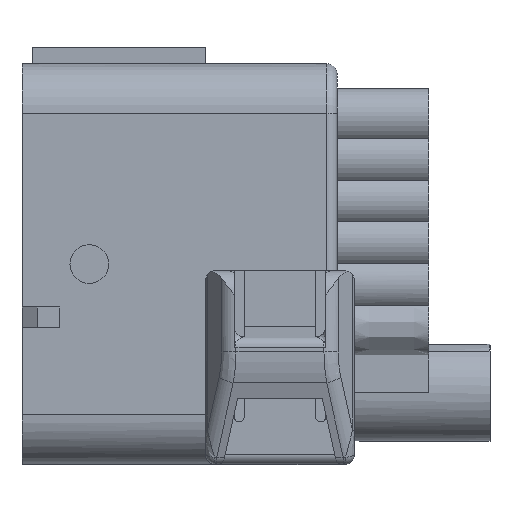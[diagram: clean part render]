
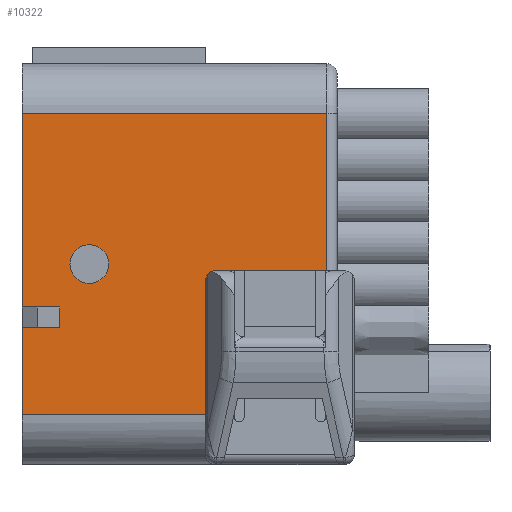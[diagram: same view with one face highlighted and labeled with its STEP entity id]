
A CAD part, front view. The second image highlights one B-rep face of the part: STEP entity #10322.
In plain terms, the highlighted planar face has unit normal (0, -1, 0).
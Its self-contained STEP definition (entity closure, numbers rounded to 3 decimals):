
#2157=CARTESIAN_POINT('Vertex',(0.,-10.05,-4.2)) ;
#2164=CARTESIAN_POINT('Vertex',(0.,-10.05,-6.2)) ;
#3484=CARTESIAN_POINT('Vertex',(8.5,-10.05,0.)) ;
#3487=CARTESIAN_POINT('Axis2P3D Location',(6.6,-10.05,0.)) ;
#3491=CARTESIAN_POINT('Vertex',(4.7,-10.05,0.)) ;
#3506=CARTESIAN_POINT('Axis2P3D Location',(6.6,-10.05,0.)) ;
#3519=CARTESIAN_POINT('Control Point',(0.5,-10.05,-4.2)) ;
#3520=CARTESIAN_POINT('Control Point',(3.7,-10.05,-4.2)) ;
#3521=CARTESIAN_POINT('Vertex',(3.7,-10.05,-4.2)) ;
#3523=CARTESIAN_POINT('Vertex',(0.5,-10.05,-4.2)) ;
#3527=CARTESIAN_POINT('Control Point',(0.,-10.05,-4.2)) ;
#3528=CARTESIAN_POINT('Control Point',(0.5,-10.05,-4.2)) ;
#3551=CARTESIAN_POINT('Vertex',(3.7,-10.05,-6.2)) ;
#3554=CARTESIAN_POINT('Line Origine',(3.7,-10.05,-5.2)) ;
#3567=CARTESIAN_POINT('Control Point',(0.,-10.05,-6.2)) ;
#3568=CARTESIAN_POINT('Control Point',(0.5,-10.05,-6.2)) ;
#3569=CARTESIAN_POINT('Vertex',(0.5,-10.05,-6.2)) ;
#3573=CARTESIAN_POINT('Control Point',(0.5,-10.05,-6.2)) ;
#3574=CARTESIAN_POINT('Control Point',(3.7,-10.05,-6.2)) ;
#3602=CARTESIAN_POINT('Vertex',(0.,-10.05,-14.75)) ;
#3605=CARTESIAN_POINT('Line Origine',(0.,-10.05,-10.475)) ;
#3610=CARTESIAN_POINT('Line Origine',(0.,-10.05,5.275)) ;
#3614=CARTESIAN_POINT('Vertex',(0.,-10.05,14.75)) ;
#3694=CARTESIAN_POINT('Vertex',(18.,-10.05,-14.75)) ;
#3697=CARTESIAN_POINT('Line Origine',(16.3,-10.05,-14.75)) ;
#4639=CARTESIAN_POINT('Line Origine',(15.45,-10.05,14.75)) ;
#4643=CARTESIAN_POINT('Vertex',(29.9,-10.05,14.75)) ;
#5355=CARTESIAN_POINT('Line Origine',(29.9,-10.05,0.)) ;
#5359=CARTESIAN_POINT('Vertex',(29.9,-10.05,-0.65)) ;
#10279=CARTESIAN_POINT('Axis2P3D Location',(0.,-10.05,-14.751)) ;
#10284=CARTESIAN_POINT('Line Origine',(24.45,-10.05,-0.65)) ;
#10288=CARTESIAN_POINT('Vertex',(19.,-10.05,-0.65)) ;
#10291=CARTESIAN_POINT('Line Origine',(18.,-10.05,-8.2)) ;
#10295=CARTESIAN_POINT('Vertex',(18.,-10.05,-1.65)) ;
#10298=CARTESIAN_POINT('Axis2P3D Location',(19.,-10.05,-1.65)) ;
#3488=DIRECTION('Axis2P3D Direction',(0.,1.,0.)) ;
#3507=DIRECTION('Axis2P3D Direction',(0.,1.,0.)) ;
#3555=DIRECTION('Vector Direction',(0.,0.,-1.)) ;
#3606=DIRECTION('Vector Direction',(0.,0.,1.)) ;
#3611=DIRECTION('Vector Direction',(0.,0.,1.)) ;
#3698=DIRECTION('Vector Direction',(-1.,0.,0.)) ;
#4640=DIRECTION('Vector Direction',(1.,0.,0.)) ;
#5356=DIRECTION('Vector Direction',(0.,0.,1.)) ;
#10280=DIRECTION('Axis2P3D Direction',(0.,1.,0.)) ;
#10281=DIRECTION('Axis2P3D XDirection',(-1.,0.,0.)) ;
#10285=DIRECTION('Vector Direction',(-1.,0.,0.)) ;
#10292=DIRECTION('Vector Direction',(0.,0.,-1.)) ;
#10299=DIRECTION('Axis2P3D Direction',(0.,1.,0.)) ;
#3489=AXIS2_PLACEMENT_3D('Circle Axis2P3D',#3487,#3488,$) ;
#3508=AXIS2_PLACEMENT_3D('Circle Axis2P3D',#3506,#3507,$) ;
#10282=AXIS2_PLACEMENT_3D('Plane Axis2P3D',#10279,#10280,#10281) ;
#10300=AXIS2_PLACEMENT_3D('Circle Axis2P3D',#10298,#10299,$) ;
#10304=ORIENTED_EDGE('',*,*,#10290,.F.) ;
#10305=ORIENTED_EDGE('',*,*,#5361,.T.) ;
#10306=ORIENTED_EDGE('',*,*,#4645,.F.) ;
#10307=ORIENTED_EDGE('',*,*,#3616,.F.) ;
#10308=ORIENTED_EDGE('',*,*,#3529,.F.) ;
#10309=ORIENTED_EDGE('',*,*,#3525,.F.) ;
#10310=ORIENTED_EDGE('',*,*,#3558,.T.) ;
#10311=ORIENTED_EDGE('',*,*,#3575,.T.) ;
#10312=ORIENTED_EDGE('',*,*,#3571,.T.) ;
#10313=ORIENTED_EDGE('',*,*,#3609,.F.) ;
#10314=ORIENTED_EDGE('',*,*,#3701,.F.) ;
#10315=ORIENTED_EDGE('',*,*,#10297,.F.) ;
#10316=ORIENTED_EDGE('',*,*,#10302,.F.) ;
#10319=ORIENTED_EDGE('',*,*,#3493,.T.) ;
#10320=ORIENTED_EDGE('',*,*,#3510,.T.) ;
#10321=FACE_BOUND('',#10318,.T.) ;
#3556=VECTOR('Line Direction',#3555,1.) ;
#3607=VECTOR('Line Direction',#3606,1.) ;
#3612=VECTOR('Line Direction',#3611,1.) ;
#3699=VECTOR('Line Direction',#3698,1.) ;
#4641=VECTOR('Line Direction',#4640,1.) ;
#5357=VECTOR('Line Direction',#5356,1.) ;
#10286=VECTOR('Line Direction',#10285,1.) ;
#10293=VECTOR('Line Direction',#10292,1.) ;
#10322=ADVANCED_FACE('6181-6464',(#10317,#10321),#10283,.F.) ;
#3518=B_SPLINE_CURVE_WITH_KNOTS('',1,(#3519,#3520),.UNSPECIFIED.,.F.,.U.,(2,2),(0.,3.2),.UNSPECIFIED.) ;
#3526=B_SPLINE_CURVE_WITH_KNOTS('',1,(#3527,#3528),.UNSPECIFIED.,.F.,.U.,(2,2),(0.,0.5),.UNSPECIFIED.) ;
#3566=B_SPLINE_CURVE_WITH_KNOTS('',1,(#3567,#3568),.UNSPECIFIED.,.F.,.U.,(2,2),(0.,0.5),.UNSPECIFIED.) ;
#3572=B_SPLINE_CURVE_WITH_KNOTS('',1,(#3573,#3574),.UNSPECIFIED.,.F.,.U.,(2,2),(0.,3.2),.UNSPECIFIED.) ;
#3490=CIRCLE('generated circle',#3489,1.9) ;
#3509=CIRCLE('generated circle',#3508,1.9) ;
#10301=CIRCLE('generated circle',#10300,1.) ;
#3493=EDGE_CURVE('',#3492,#3485,#3490,.T.) ;
#3510=EDGE_CURVE('',#3485,#3492,#3509,.T.) ;
#3525=EDGE_CURVE('',#3522,#3524,#3518,.F.) ;
#3529=EDGE_CURVE('',#3524,#2158,#3526,.F.) ;
#3558=EDGE_CURVE('',#3522,#3552,#3557,.T.) ;
#3571=EDGE_CURVE('',#3570,#2165,#3566,.F.) ;
#3575=EDGE_CURVE('',#3552,#3570,#3572,.F.) ;
#3609=EDGE_CURVE('',#3603,#2165,#3608,.T.) ;
#3616=EDGE_CURVE('',#2158,#3615,#3613,.T.) ;
#3701=EDGE_CURVE('',#3695,#3603,#3700,.T.) ;
#4645=EDGE_CURVE('',#3615,#4644,#4642,.T.) ;
#5361=EDGE_CURVE('',#5360,#4644,#5358,.T.) ;
#10290=EDGE_CURVE('',#5360,#10289,#10287,.T.) ;
#10297=EDGE_CURVE('',#10296,#3695,#10294,.T.) ;
#10302=EDGE_CURVE('',#10289,#10296,#10301,.F.) ;
#10303=EDGE_LOOP('',(#10304,#10305,#10306,#10307,#10308,#10309,#10310,#10311,#10312,#10313,#10314,#10315,#10316)) ;
#10318=EDGE_LOOP('',(#10319,#10320)) ;
#10317=FACE_OUTER_BOUND('',#10303,.T.) ;
#3557=LINE('Line',#3554,#3556) ;
#3608=LINE('Line',#3605,#3607) ;
#3613=LINE('Line',#3610,#3612) ;
#3700=LINE('Line',#3697,#3699) ;
#4642=LINE('Line',#4639,#4641) ;
#5358=LINE('Line',#5355,#5357) ;
#10287=LINE('Line',#10284,#10286) ;
#10294=LINE('Line',#10291,#10293) ;
#10283=PLANE('',#10282) ;
#2158=VERTEX_POINT('',#2157) ;
#2165=VERTEX_POINT('',#2164) ;
#3485=VERTEX_POINT('',#3484) ;
#3492=VERTEX_POINT('',#3491) ;
#3522=VERTEX_POINT('',#3521) ;
#3524=VERTEX_POINT('',#3523) ;
#3552=VERTEX_POINT('',#3551) ;
#3570=VERTEX_POINT('',#3569) ;
#3603=VERTEX_POINT('',#3602) ;
#3615=VERTEX_POINT('',#3614) ;
#3695=VERTEX_POINT('',#3694) ;
#4644=VERTEX_POINT('',#4643) ;
#5360=VERTEX_POINT('',#5359) ;
#10289=VERTEX_POINT('',#10288) ;
#10296=VERTEX_POINT('',#10295) ;
